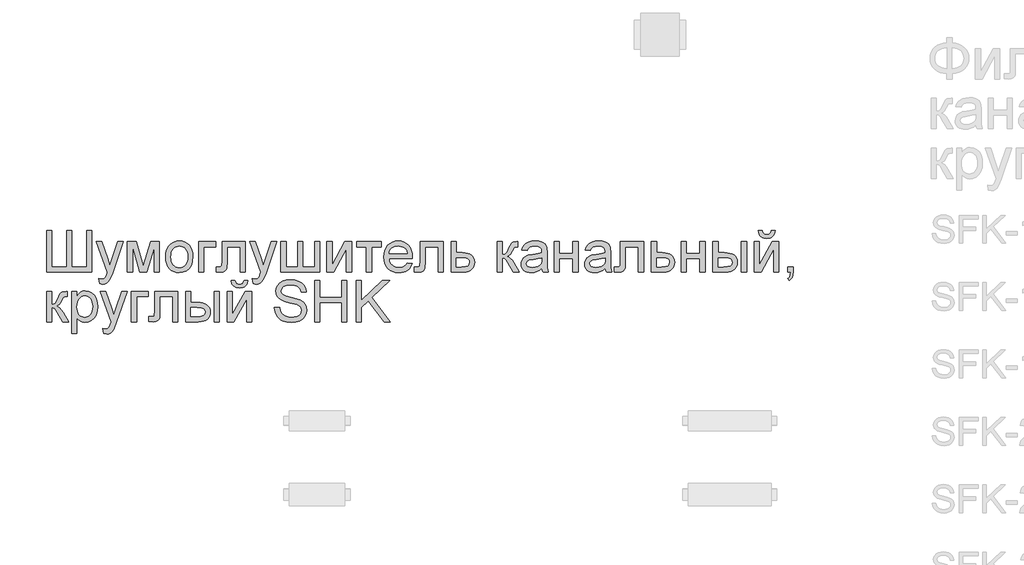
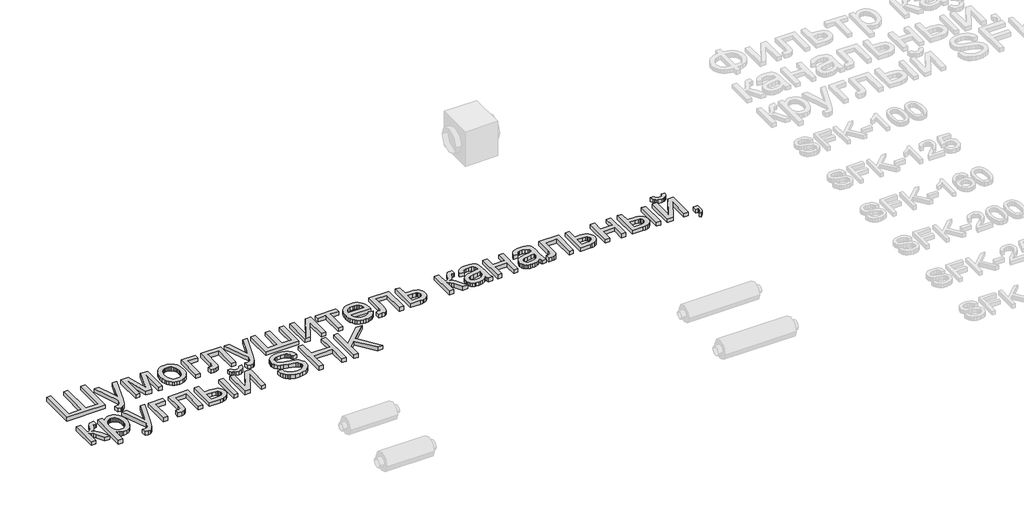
# One storey, part 11 of 31: 1 proxy.
"""IFC4 building model written with IfcOpenShell, lengths in millimetres."""

from ifc_helpers import new_model, si_unit, origin, origin_with_axes, place, context, project, spatial, polyline, outline, extrude, element, save

model = new_model("IFC4")

# Units and contexts
model_context = context("Model", 3, world=origin())
ifc_project = project(units=[si_unit("LENGTHUNIT", "METRE", prefix="MILLI")], contexts=[model_context])

# Site, building, storey
site = spatial("IfcSite", under=ifc_project)
building = spatial("IfcBuilding", under=site)
storey = spatial("IfcBuildingStorey", under=building, Name="Этаж 01", Elevation=0.0)

# Proxy
placement = place(None, origin())
element("IfcBuildingElementProxy", 1, Name="450 мм Arial", ObjectType="450 мм Arial", at=placement, inside=storey, context=model_context, shape_type="SweptSolid", body=[
    extrude(outline(polyline([(812.0594119, -9929.8493808), (868.2664298, -9929.8493808), (868.2664298, -10323.2985058), (1029.8616061, -10323.2985058), (1029.8616061, -9929.8493808), (1086.0686239, -9929.8493808), (1086.0686239, -10323.2985058), (1247.6638003, -10323.2985058), (1247.6638003, -9929.8493808), (1303.8708181, -9929.8493808), (1303.8708181, -10379.5055236), (812.0594119, -10379.5055236), (812.0594119, -9929.8493808)])), origin_with_axes(), (0.0, 0.0, 1.0), 50.0),
    extrude(outline(polyline([(1388.1813449, -10505.9713138), (1381.1554677, -10451.8501033), (1409.6980939, -10456.7901732), (1424.7104175, -10455.2395401), (1436.3744715, -10450.5876409), (1452.7315919, -10433.2973962), (1468.1006984, -10391.9105881), (1472.4918717, -10378.297951), (1353.0519587, -10049.2892938), (1412.3327979, -10049.2892938), (1475.6754723, -10232.6207778), (1497.741118, -10305.9533714), (1519.8067636, -10241.1835656), (1584.9059074, -10049.2892938), (1643.7476292, -10049.2892938), (1528.8086688, -10387.4096355), (1498.9486906, -10460.7422291), (1483.6619187, -10484.1526716), (1466.3442291, -10500.3725679), (1446.2271665, -10509.8410352), (1422.5422757, -10512.997191), (1388.1813449, -10505.9713138)])), origin_with_axes(), (0.0, 0.0, 1.0), 50.0),
    extrude(outline(polyline([(1690.2940658, -10049.2892938), (1787.0096571, -10049.2892938), (1861.5498234, -10313.6379246), (1941.9082942, -10049.2892938), (2034.5620502, -10049.2892938), (2034.5620502, -10379.5055236), (1978.3550323, -10379.5055236), (1978.3550323, -10113.6199822), (1897.5574442, -10379.5055236), (1823.7857332, -10379.5055236), (1746.5010837, -10100.8855797), (1746.5010837, -10379.5055236), (1690.2940658, -10379.5055236), (1690.2940658, -10049.2892938)])), origin_with_axes(), (0.0, 0.0, 1.0), 50.0),
    extrude(outline(polyline([(2104.8208225, -10214.3974087), (2107.8603377, -10171.6314978), (2116.9788835, -10134.7799484), (2132.1764597, -10103.8427604), (2153.4530665, -10078.819934), (2174.8737586, -10062.8264576), (2198.5174821, -10051.4025459), (2224.3842372, -10044.5481989), (2252.4740237, -10042.2634165), (2283.4832543, -10045.0456365), (2311.5215818, -10053.3922963), (2336.589006, -10067.303396), (2358.6855272, -10086.7789355), (2376.720213, -10111.160239), (2389.6021315, -10139.7886304), (2397.3312825, -10172.6641096), (2399.9076662, -10209.7866768), (2395.351824, -10266.5700361), (2389.6570211, -10289.8775605), (2381.6842972, -10309.795648), (2359.3030359, -10342.1668284), (2328.6059903, -10366.3868935), (2292.1455297, -10381.495274), (2252.4740237, -10386.5314009), (2221.0119533, -10383.7594727), (2192.7129, -10375.4436884), (2167.5768636, -10361.5840477), (2145.6038442, -10342.1805508), (2127.7612722, -10317.5625357), (2115.0165779, -10288.0593403), (2107.3697614, -10253.6709646), (2104.8208225, -10214.3974087)]), holes=[polyline([(2161.0278404, -10214.2876294), (2162.6539467, -10241.5506403), (2167.5322658, -10265.1566272), (2175.6627975, -10285.1055902), (2187.045542, -10301.3975291), (2200.8914602, -10314.0530277), (2216.4115132, -10323.0926695), (2233.605701, -10328.5164546), (2252.4740237, -10330.324383), (2271.2462894, -10328.5061628), (2288.3718652, -10323.0515023), (2303.8507509, -10313.9604014), (2317.6829467, -10301.2328601), (2329.0656912, -10284.7796828), (2337.196223, -10264.5116736), (2342.074542, -10240.4288327), (2343.7006484, -10212.5311601), (2342.0642502, -10186.1326614), (2337.1550557, -10163.1441832), (2328.9730649, -10143.5657255), (2317.5182778, -10127.3972883), (2303.6346229, -10114.7417897), (2288.1660289, -10105.7021479), (2271.1124959, -10100.2783627), (2252.4740237, -10098.4704344), (2233.605701, -10100.2715015), (2216.4115132, -10105.674703), (2200.8914602, -10114.6800388), (2187.045542, -10127.287509), (2175.6627975, -10143.5314195), (2167.5322658, -10163.4460764), (2162.6539467, -10187.0314797), (2161.0278404, -10214.2876294)])]), origin_with_axes(), (0.0, 0.0, 1.0), 50.0),
    extrude(outline(polyline([(2463.1405613, -10049.2892938), (2645.8133693, -10049.2892938), (2645.8133693, -10105.4963116), (2519.3475792, -10105.4963116), (2519.3475792, -10379.5055236), (2463.1405613, -10379.5055236), (2463.1405613, -10049.2892938)])), origin_with_axes(), (0.0, 0.0, 1.0), 50.0),
    extrude(outline(polyline([(2716.0721416, -10049.2892938), (2969.003722, -10049.2892938), (2969.003722, -10379.1761856), (2912.7967041, -10379.1761856), (2912.7967041, -10105.4963116), (2772.2791595, -10105.4963116), (2772.2791595, -10263.0296527), (2768.4917725, -10335.7035703), (2761.3972832, -10352.1567476), (2747.6885892, -10366.3868935), (2726.8854058, -10376.2258661), (2698.5074486, -10379.5055236), (2652.8392466, -10376.651261), (2652.8392466, -10323.2985058), (2677.9787135, -10323.2985058), (2703.3926288, -10319.8404568), (2709.7461076, -10315.3669491), (2713.547217, -10308.8625237), (2716.0721416, -10259.846052), (2716.0721416, -10049.2892938)])), origin_with_axes(), (0.0, 0.0, 1.0), 50.0),
    extrude(outline(polyline([(3053.3142488, -10505.9713138), (3046.2883715, -10451.8501033), (3074.8309978, -10456.7901732), (3089.8433214, -10455.2395401), (3101.5073754, -10450.5876409), (3117.8644958, -10433.2973962), (3133.2336023, -10391.9105881), (3137.6247755, -10378.297951), (3018.1848626, -10049.2892938), (3077.4657017, -10049.2892938), (3140.8083762, -10232.6207778), (3162.8740218, -10305.9533714), (3184.9396675, -10241.1835656), (3250.0388112, -10049.2892938), (3308.8805331, -10049.2892938), (3193.9415727, -10387.4096355), (3164.0815945, -10460.7422291), (3148.7948225, -10484.1526716), (3131.477133, -10500.3725679), (3111.3600704, -10509.8410352), (3087.6751796, -10512.997191), (3053.3142488, -10505.9713138)])), origin_with_axes(), (0.0, 0.0, 1.0), 50.0),
    extrude(outline(polyline([(3355.4269697, -10049.2892938), (3411.6339876, -10049.2892938), (3411.6339876, -10323.2985058), (3538.0997777, -10323.2985058), (3538.0997777, -10049.2892938), (3594.3067956, -10049.2892938), (3594.3067956, -10323.2985058), (3720.7725857, -10323.2985058), (3720.7725857, -10049.2892938), (3776.9796036, -10049.2892938), (3776.9796036, -10379.5055236), (3355.4269697, -10379.5055236), (3355.4269697, -10049.2892938)])), origin_with_axes(), (0.0, 0.0, 1.0), 50.0),
    extrude(outline(polyline([(3854.2642531, -10049.2892938), (3910.471271, -10049.2892938), (3910.471271, -10301.1230808), (4048.5736703, -10049.2892938), (4121.2475879, -10049.2892938), (4121.2475879, -10379.5055236), (4065.0405701, -10379.5055236), (4065.0405701, -10129.2086473), (3927.8164054, -10379.5055236), (3854.2642531, -10379.5055236), (3854.2642531, -10049.2892938)])), origin_with_axes(), (0.0, 0.0, 1.0), 50.0),
    extrude(outline(polyline([(4177.4546058, -10049.2892938), (4444.4379406, -10049.2892938), (4444.4379406, -10105.4963116), (4339.0497821, -10105.4963116), (4339.0497821, -10379.5055236), (4282.8427643, -10379.5055236), (4282.8427643, -10105.4963116), (4177.4546058, -10105.4963116), (4177.4546058, -10049.2892938)])), origin_with_axes(), (0.0, 0.0, 1.0), 50.0),
    extrude(outline(polyline([(4724.8143539, -10281.1432424), (4779.9235784, -10288.1691196), (4771.4740005, -10310.2416265), (4760.0672418, -10329.6931519), (4745.7033023, -10346.5236957), (4728.3821821, -10360.7332579), (4708.2822726, -10372.0199455), (4685.5819652, -10380.0818651), (4660.2812598, -10384.9190169), (4632.3801565, -10386.5314009), (4597.5046351, -10383.7491809), (4566.430223, -10375.4025211), (4539.1569203, -10361.4914214), (4515.6847269, -10342.0158818), (4496.809543, -10317.5179378), (4483.3272689, -10288.5396249), (4475.2379044, -10255.0809429), (4472.5414495, -10217.141892), (4475.2653492, -10177.9163645), (4483.4370482, -10143.3427362), (4497.0565465, -10113.4210071), (4516.1238442, -10088.1511772), (4539.5342867, -10068.0752819), (4566.1832195, -10053.7353567), (4596.0706426, -10045.1314016), (4629.1965559, -10042.2634165), (4661.2555514, -10045.1245404), (4690.2475868, -10053.7079119), (4716.1726621, -10068.013531), (4739.0307773, -10088.0413979), (4757.6898331, -10113.2563381), (4771.0177301, -10143.1231776), (4779.0144683, -10177.6419162), (4781.6800477, -10216.812554), (4781.3507097, -10231.9621018), (4528.7484674, -10231.9621018), (4532.0041107, -10254.3913915), (4538.4776606, -10274.0350307), (4548.1691173, -10290.8930193), (4561.0784806, -10304.9653574), (4576.4921849, -10316.0599311), (4593.6966645, -10323.9846266), (4612.6919195, -10328.7394439), (4633.4779499, -10330.324383), (4663.3928178, -10327.3877859), (4688.5871744, -10318.5779945), (4709.0610198, -10303.3461122), (4724.8143539, -10281.1432424)]), holes=[polyline([(4528.7484674, -10175.7550839), (4725.4730299, -10175.7550839), (4717.8708111, -10146.0597747), (4702.9682668, -10124.817474), (4687.6403277, -10113.2906442), (4670.1991363, -10105.0571943), (4650.6446929, -10100.1171244), (4628.9769973, -10098.4704344), (4591.0894054, -10103.7261199), (4559.7611286, -10119.4931764), (4547.304605, -10130.8930739), (4537.9836537, -10144.0700243), (4531.7982744, -10159.0240276), (4528.7484674, -10175.7550839)])]), origin_with_axes(), (0.0, 0.0, 1.0), 50.0),
    extrude(outline(polyline([(4865.9905745, -10049.2892938), (5118.9221548, -10049.2892938), (5118.9221548, -10379.1761856), (5062.715137, -10379.1761856), (5062.715137, -10105.4963116), (4922.1975923, -10105.4963116), (4922.1975923, -10263.0296527), (4918.4102054, -10335.7035703), (4911.3157161, -10352.1567476), (4897.607022, -10366.3868935), (4876.8038387, -10376.2258661), (4848.4258814, -10379.5055236), (4802.7576794, -10376.651261), (4802.7576794, -10323.2985058), (4827.8971464, -10323.2985058), (4853.3110617, -10319.8404568), (4859.6645405, -10315.3669491), (4863.4656499, -10308.8625237), (4865.9905745, -10259.846052), (4865.9905745, -10049.2892938)])), origin_with_axes(), (0.0, 0.0, 1.0), 50.0),
    extrude(outline(polyline([(5203.2326816, -10049.2892938), (5259.4396995, -10049.2892938), (5259.4396995, -10168.7292067), (5324.2095052, -10168.7292067), (5354.1106507, -10170.4891066), (5380.3616334, -10175.7688063), (5402.9624533, -10184.5683059), (5421.9131104, -10196.8876053), (5436.8979892, -10212.3013096), (5447.6014741, -10230.3840239), (5454.023565, -10251.1357482), (5456.1642619, -10274.5564825), (5454.3426111, -10295.4522922), (5448.8776588, -10314.7768852), (5439.7694049, -10332.5302615), (5427.0178494, -10348.7124211), (5410.2593482, -10362.1844035), (5389.1302575, -10371.807248), (5363.6305771, -10377.5809547), (5333.760307, -10379.5055236), (5203.2326816, -10379.5055236), (5203.2326816, -10049.2892938)]), holes=[polyline([(5259.4396995, -10323.2985058), (5311.91422, -10323.2985058), (5352.6286297, -10320.3481862), (5379.7029574, -10311.4972276), (5394.8936724, -10296.3888471), (5399.9572441, -10274.6662618), (5396.2110244, -10256.3056686), (5384.9723653, -10240.0857723), (5375.2054354, -10233.4578452), (5360.8895244, -10228.7236115), (5318.6107593, -10224.9362245), (5259.4396995, -10224.9362245), (5259.4396995, -10323.2985058)])]), origin_with_axes(), (0.0, 0.0, 1.0), 50.0),
    extrude(outline(polyline([(5702.069965, -10049.2892938), (5758.2769829, -10049.2892938), (5758.2769829, -10189.8068384), (5781.1385287, -10187.2819138), (5795.9312937, -10179.7071399), (5809.022479, -10159.9468602), (5826.7792859, -10120.8654181), (5841.0917663, -10088.9059101), (5852.4127599, -10070.0924771), (5862.9790205, -10059.841832), (5875.0273022, -10053.5706877), (5916.1396619, -10049.2892938), (5926.8980364, -10049.2892938), (5926.8980364, -10105.8256496), (5911.7484887, -10105.4963116), (5894.1837956, -10106.9783326), (5884.3036557, -10111.4243955), (5864.9824933, -10148.4200303), (5853.1126031, -10173.0792127), (5842.3130613, -10188.4345967), (5829.2355984, -10198.6852418), (5810.5319448, -10208.0302075), (5828.3436414, -10215.9411805), (5845.990669, -10229.9037393), (5863.4730275, -10249.9178837), (5880.7907171, -10275.9836138), (5940.9497909, -10379.5055236), (5877.0582198, -10379.5055236), (5818.1067187, -10278.1792004), (5802.1887156, -10251.2146521), (5788.4662991, -10235.3103714), (5774.6066585, -10227.5297613), (5758.2769829, -10224.9362245), (5758.2769829, -10379.5055236), (5702.069965, -10379.5055236), (5702.069965, -10049.2892938)])), origin_with_axes(), (0.0, 0.0, 1.0), 50.0),
    extrude(outline(polyline([(6186.855494, -10337.3502602), (6160.000725, -10360.3764751), (6132.3500558, -10375.4436884), (6103.2722553, -10383.7594727), (6072.1360923, -10386.5314009), (6047.1098353, -10384.8641273), (6025.1642608, -10379.8623065), (6006.2993687, -10371.5259385), (5990.5151592, -10359.8550233), (5978.0517744, -10345.5905713), (5969.1493568, -10329.4735932), (5963.8079061, -10311.5040888), (5962.0274226, -10291.6820582), (5964.7170162, -10268.3813951), (5972.7857971, -10247.2214289), (5985.2320289, -10229.1078392), (6001.053975, -10214.9463054), (6019.6478494, -10204.2428205), (6040.4098655, -10196.5033776), (6089.0421094, -10188.0503691), (6146.5115896, -10179.1582432), (6186.526156, -10168.7292067), (6186.855494, -10156.2143629), (6182.9857726, -10131.1297856), (6171.3766082, -10114.7177755), (6145.4137963, -10102.5322697), (6109.2415065, -10098.4704344), (6075.7588103, -10101.1737504), (6052.3758126, -10109.2836986), (6036.4303647, -10124.2822998), (6025.2603177, -10147.651575), (5969.0532998, -10140.6256978), (5978.8099379, -10109.8874849), (5993.3694218, -10085.7360319), (6014.0902707, -10067.2656593), (6042.3310038, -10053.5706877), (6076.870326, -10045.0902343), (6116.4869424, -10042.2634165), (6154.4843136, -10044.7608963), (6184.6050177, -10052.2533357), (6207.315617, -10063.5194396), (6223.0826735, -10077.337913), (6233.5391548, -10094.4223215), (6240.3180286, -10115.4862308), (6243.0625119, -10164.6673714), (6243.0625119, -10234.5968057), (6245.9167745, -10332.2455213), (6257.1142663, -10379.5055236), (6200.9072485, -10379.5055236), (6191.9053433, -10359.9648026), (6186.855494, -10337.3502602)]), holes=[polyline([(6186.855494, -10224.9362245), (6149.0914039, -10234.2949126), (6096.177766, -10242.1715796), (6047.8199704, -10251.2832642), (6035.2365145, -10257.5132412), (6025.9189937, -10266.1034739), (6020.1555788, -10276.3952863), (6018.2344405, -10287.7300023), (6022.4197775, -10304.4439056), (6034.9757885, -10318.1388772), (6055.6280253, -10327.2780066), (6084.1020395, -10330.324383), (6114.2913557, -10326.962391), (6140.9677333, -10316.8764149), (6162.5942617, -10302.0150378), (6177.6340301, -10284.326843), (6184.3031246, -10266.1034739), (6186.526156, -10240.8542276), (6186.855494, -10224.9362245)])]), origin_with_axes(), (0.0, 0.0, 1.0), 50.0),
    extrude(outline(polyline([(6320.3471614, -10049.2892938), (6376.5541793, -10049.2892938), (6376.5541793, -10175.7550839), (6524.0976011, -10175.7550839), (6524.0976011, -10049.2892938), (6580.304619, -10049.2892938), (6580.304619, -10379.5055236), (6524.0976011, -10379.5055236), (6524.0976011, -10231.9621018), (6376.5541793, -10231.9621018), (6376.5541793, -10379.5055236), (6320.3471614, -10379.5055236), (6320.3471614, -10049.2892938)])), origin_with_axes(), (0.0, 0.0, 1.0), 50.0),
    extrude(outline(polyline([(6875.3914627, -10337.3502602), (6848.5366937, -10360.3764751), (6820.8860245, -10375.4436884), (6791.808224, -10383.7594727), (6760.672061, -10386.5314009), (6735.645804, -10384.8641273), (6713.7002295, -10379.8623065), (6694.8353374, -10371.5259385), (6679.0511279, -10359.8550233), (6666.5877431, -10345.5905713), (6657.6853254, -10329.4735932), (6652.3438748, -10311.5040888), (6650.5633913, -10291.6820582), (6653.2529849, -10268.3813951), (6661.3217658, -10247.2214289), (6673.7679975, -10229.1078392), (6689.5899437, -10214.9463054), (6708.183818, -10204.2428205), (6728.9458342, -10196.5033776), (6777.5780781, -10188.0503691), (6835.0475583, -10179.1582432), (6875.0621247, -10168.7292067), (6875.3914627, -10156.2143629), (6871.5217413, -10131.1297856), (6859.9125769, -10114.7177755), (6833.949765, -10102.5322697), (6797.7774752, -10098.4704344), (6764.294779, -10101.1737504), (6740.9117813, -10109.2836986), (6724.9663334, -10124.2822998), (6713.7962864, -10147.651575), (6657.5892685, -10140.6256978), (6667.3459066, -10109.8874849), (6681.9053905, -10085.7360319), (6702.6262394, -10067.2656593), (6730.8669725, -10053.5706877), (6765.4062947, -10045.0902343), (6805.0229111, -10042.2634165), (6843.0202823, -10044.7608963), (6873.1409864, -10052.2533357), (6895.8515857, -10063.5194396), (6911.6186422, -10077.337913), (6922.0751235, -10094.4223215), (6928.8539973, -10115.4862308), (6931.5984806, -10164.6673714), (6931.5984806, -10234.5968057), (6934.4527432, -10332.2455213), (6945.650235, -10379.5055236), (6889.4432172, -10379.5055236), (6880.441312, -10359.9648026), (6875.3914627, -10337.3502602)]), holes=[polyline([(6875.3914627, -10224.9362245), (6837.6273726, -10234.2949126), (6784.7137347, -10242.1715796), (6736.3559391, -10251.2832642), (6723.7724831, -10257.5132412), (6714.4549624, -10266.1034739), (6708.6915475, -10276.3952863), (6706.7704091, -10287.7300023), (6710.9557462, -10304.4439056), (6723.5117572, -10318.1388772), (6744.163994, -10327.2780066), (6772.6380082, -10330.324383), (6802.8273244, -10326.962391), (6829.503702, -10316.8764149), (6851.1302304, -10302.0150378), (6866.1699988, -10284.326843), (6872.8390932, -10266.1034739), (6875.0621247, -10240.8542276), (6875.3914627, -10224.9362245)])]), origin_with_axes(), (0.0, 0.0, 1.0), 50.0),
    extrude(outline(polyline([(7036.986639, -10049.2892938), (7289.9182194, -10049.2892938), (7289.9182194, -10379.1761856), (7233.7112015, -10379.1761856), (7233.7112015, -10105.4963116), (7093.1936569, -10105.4963116), (7093.1936569, -10263.0296527), (7089.4062699, -10335.7035703), (7082.3117806, -10352.1567476), (7068.6030866, -10366.3868935), (7047.7999032, -10376.2258661), (7019.4219459, -10379.5055236), (6973.7537439, -10376.651261), (6973.7537439, -10323.2985058), (6998.8932109, -10323.2985058), (7024.3071262, -10319.8404568), (7030.660605, -10315.3669491), (7034.4617144, -10308.8625237), (7036.986639, -10259.846052), (7036.986639, -10049.2892938)])), origin_with_axes(), (0.0, 0.0, 1.0), 50.0),
    extrude(outline(polyline([(7374.2287461, -10049.2892938), (7430.435764, -10049.2892938), (7430.435764, -10168.7292067), (7495.2055697, -10168.7292067), (7525.1067152, -10170.4891066), (7551.3576979, -10175.7688063), (7573.9585178, -10184.5683059), (7592.909175, -10196.8876053), (7607.8940538, -10212.3013096), (7618.5975386, -10230.3840239), (7625.0196295, -10251.1357482), (7627.1603265, -10274.5564825), (7625.3386757, -10295.4522922), (7619.8737233, -10314.7768852), (7610.7654694, -10332.5302615), (7598.0139139, -10348.7124211), (7581.2554128, -10362.1844035), (7560.126322, -10371.807248), (7534.6266416, -10377.5809547), (7504.7563716, -10379.5055236), (7374.2287461, -10379.5055236), (7374.2287461, -10049.2892938)]), holes=[polyline([(7430.435764, -10323.2985058), (7482.9102846, -10323.2985058), (7523.6246942, -10320.3481862), (7550.6990219, -10311.4972276), (7565.8897369, -10296.3888471), (7570.9533086, -10274.6662618), (7567.2070889, -10256.3056686), (7555.9684298, -10240.0857723), (7546.2014999, -10233.4578452), (7531.8855889, -10228.7236115), (7489.6068238, -10224.9362245), (7430.435764, -10224.9362245), (7430.435764, -10323.2985058)])]), origin_with_axes(), (0.0, 0.0, 1.0), 50.0),
    extrude(outline(polyline([(7697.4190988, -10049.2892938), (7753.6261166, -10049.2892938), (7753.6261166, -10175.7550839), (7901.1695385, -10175.7550839), (7901.1695385, -10049.2892938), (7957.3765564, -10049.2892938), (7957.3765564, -10379.5055236), (7901.1695385, -10379.5055236), (7901.1695385, -10231.9621018), (7753.6261166, -10231.9621018), (7753.6261166, -10379.5055236), (7697.4190988, -10379.5055236), (7697.4190988, -10049.2892938)])), origin_with_axes(), (0.0, 0.0, 1.0), 50.0),
    extrude(outline(polyline([(8350.8256813, -10049.2892938), (8407.0326992, -10049.2892938), (8407.0326992, -10379.5055236), (8350.8256813, -10379.5055236), (8350.8256813, -10049.2892938)])), origin_with_axes(), (0.0, 0.0, 1.0), 50.0),
    extrude(outline(polyline([(8041.6870831, -10049.2892938), (8097.894101, -10049.2892938), (8097.894101, -10168.7292067), (8167.384418, -10168.7292067), (8199.361079, -10170.4891066), (8227.4474349, -10175.7688063), (8251.6434857, -10184.5683059), (8271.9492315, -10196.8876053), (8288.0147505, -10212.3013096), (8299.4901213, -10230.3840239), (8306.3753438, -10251.1357482), (8308.6704179, -10274.5564825), (8306.745849, -10295.4522922), (8300.9721423, -10314.7768852), (8291.3492977, -10332.5302615), (8277.8773154, -10348.7124211), (8260.1788287, -10362.1844035), (8237.8764714, -10371.807248), (8210.9702433, -10377.5809547), (8179.4601445, -10379.5055236), (8041.6870831, -10379.5055236), (8041.6870831, -10049.2892938)]), holes=[polyline([(8097.894101, -10323.2985058), (8155.6380295, -10323.2985058), (8200.400552, -10320.3481862), (8230.1781957, -10311.4972276), (8246.892099, -10296.3888471), (8252.4634001, -10274.6662618), (8248.3329527, -10256.3056686), (8235.9416107, -10240.0857723), (8225.1866667, -10233.4578452), (8209.4436245, -10228.7236115), (8162.9932447, -10224.9362245), (8097.894101, -10224.9362245), (8097.894101, -10323.2985058)])]), origin_with_axes(), (0.0, 0.0, 1.0), 50.0),
    extrude(outline(polyline([(8491.343226, -10049.2892938), (8547.5502438, -10049.2892938), (8547.5502438, -10301.1230808), (8685.6526431, -10049.2892938), (8758.3265608, -10049.2892938), (8758.3265608, -10379.5055236), (8702.1195429, -10379.5055236), (8702.1195429, -10129.2086473), (8564.8953782, -10379.5055236), (8491.343226, -10379.5055236), (8491.343226, -10049.2892938)])), origin_with_axes(), (0.0, 0.0, 1.0), 50.0),
    extrude(outline(polyline([(8674.016034, -9929.8493808), (8716.1712974, -9929.8493808), (8707.1007801, -9965.8432792), (8699.1383479, -9980.2895532), (8688.8911334, -9992.3687102), (8676.5649728, -10001.9023591), (8662.3657024, -10008.7121083), (8628.347832, -10014.1599076), (8591.4345317, -10008.7532755), (8576.0860088, -10001.9949854), (8562.8095709, -9992.5333792), (8551.7973317, -9980.5056812), (8543.241405, -9966.0491155), (8533.4984893, -9929.8493808), (8575.6537527, -9929.8493808), (8581.5818366, -9948.3609206), (8591.4619765, -9961.520718), (8605.349062, -9969.3836627), (8623.2979827, -9972.0046442), (8643.5522694, -9969.4659972), (8658.2078102, -9961.850056), (8668.0879501, -9948.7725931), (8674.016034, -9929.8493808)])), origin_with_axes(), (0.0, 0.0, 1.0), 50.0),
    extrude(outline(polyline([(8856.688842, -10379.5055236), (8856.688842, -10323.2985058), (8912.8958598, -10323.2985058), (8912.8958598, -10379.5055236), (8910.3709352, -10411.6571454), (8902.7961613, -10436.9750038), (8889.7324208, -10456.3922231), (8870.7405965, -10470.8419276), (8856.688842, -10449.764296), (8868.8743478, -10439.5822629), (8877.3273564, -10425.5030636), (8882.4595401, -10405.9897874), (8884.6825716, -10379.5055236), (8856.688842, -10379.5055236)])), origin_with_axes(), (0.0, 0.0, 1.0), 50.0),
    extrude(outline(polyline([(812.0594119, -10589.7213769), (868.2664298, -10589.7213769), (868.2664298, -10730.2389216), (891.1279756, -10727.7139969), (905.9207405, -10720.139223), (919.0119258, -10700.3789433), (936.7687328, -10661.2975012), (951.0812131, -10629.3379933), (962.4022067, -10610.5245603), (972.9684674, -10600.2739152), (985.0167491, -10594.0027709), (1026.1291088, -10589.7213769), (1036.8874833, -10589.7213769), (1036.8874833, -10646.2577328), (1021.7379355, -10645.9283948), (1004.1732424, -10647.4104158), (994.2931026, -10651.8564787), (974.9719402, -10688.8521135), (963.10205, -10713.5112959), (952.3025082, -10728.8666799), (939.2250453, -10739.117325), (920.5213917, -10748.4622906), (938.3330882, -10756.3732637), (955.9801158, -10770.3358225), (973.4624744, -10790.3499669), (990.780164, -10816.415697), (1050.9392378, -10919.9376068), (987.0476667, -10919.9376068), (928.0961656, -10818.6112836), (912.1781624, -10791.6467353), (898.455746, -10775.7424546), (884.5961053, -10767.9618444), (868.2664298, -10765.3683077), (868.2664298, -10919.9376068), (812.0594119, -10919.9376068), (812.0594119, -10589.7213769)])), origin_with_axes(), (0.0, 0.0, 1.0), 50.0),
    extrude(outline(polyline([(1086.0686239, -11046.403397), (1086.0686239, -10589.7213769), (1142.2756418, -10589.7213769), (1142.2756418, -10644.8306015), (1160.6087902, -10617.6464944), (1181.1375252, -10598.2292751), (1205.0694195, -10586.5789436), (1233.6120458, -10582.6954997), (1271.6231394, -10588.1295766), (1304.8588321, -10604.4318074), (1331.9194374, -10630.614178), (1351.4052687, -10665.6886745), (1363.1791021, -10707.1029274), (1367.1037132, -10752.3045672), (1362.6713727, -10800.3741921), (1349.3743511, -10843.3665229), (1327.6380434, -10879.0996954), (1297.8878445, -10905.3918454), (1263.2387429, -10921.5705744), (1226.8057272, -10926.963484), (1200.966417, -10923.3544885), (1177.8990349, -10912.5275019), (1158.1524776, -10896.1841039), (1142.2756418, -10876.0258741), (1142.2756418, -11046.403397), (1086.0686239, -11046.403397)]), holes=[polyline([(1142.2756418, -10757.4641958), (1143.7953994, -10784.5522459), (1148.3546723, -10807.8529091), (1155.9534604, -10827.3661853), (1166.5917638, -10843.0920746), (1179.3982089, -10855.1952459), (1193.5014225, -10863.8403683), (1208.9014043, -10869.0274417), (1225.5981546, -10870.7564662), (1242.5350471, -10868.9656908), (1258.2163385, -10863.5933648), (1272.6420288, -10854.6394881), (1285.812118, -10842.1040606), (1296.7866206, -10825.8086911), (1304.625551, -10805.574988), (1309.3289093, -10781.4029514), (1310.8966953, -10753.2925812), (1309.3666459, -10726.4378122), (1304.7764976, -10703.1783163), (1297.1262504, -10683.5140935), (1286.4159044, -10667.4451438), (1273.5785838, -10654.9577448), (1259.5474129, -10646.0381741), (1244.3223918, -10640.6864317), (1227.9035205, -10638.9025176), (1211.5361083, -10640.7996416), (1196.1361264, -10646.4910139), (1181.7035749, -10655.9766342), (1168.2384537, -10669.2565028), (1156.8797235, -10686.1522281), (1148.7663448, -10706.4854187), (1143.8983175, -10730.2560746), (1142.2756418, -10757.4641958)])]), origin_with_axes(), (0.0, 0.0, 1.0), 50.0),
    extrude(outline(polyline([(1430.3366083, -11046.403397), (1423.310731, -10992.2821864), (1451.8533573, -10997.2222564), (1466.8656809, -10995.6716233), (1478.5297349, -10991.0197241), (1494.8868553, -10973.7294794), (1510.2559618, -10932.3426713), (1514.6471351, -10918.7300342), (1395.2072221, -10589.7213769), (1454.4880613, -10589.7213769), (1517.8307357, -10773.0528609), (1539.8963814, -10846.3854545), (1561.962027, -10781.6156488), (1627.0611708, -10589.7213769), (1685.9028926, -10589.7213769), (1570.9639322, -10927.8417187), (1541.103954, -11001.1743123), (1525.8171821, -11024.5847548), (1508.4994925, -11040.8046511), (1488.3824299, -11050.2731184), (1464.6975391, -11053.4292742), (1430.3366083, -11046.403397)])), origin_with_axes(), (0.0, 0.0, 1.0), 50.0),
    extrude(outline(polyline([(1732.4493292, -10589.7213769), (1915.1221372, -10589.7213769), (1915.1221372, -10645.9283948), (1788.6563471, -10645.9283948), (1788.6563471, -10919.9376068), (1732.4493292, -10919.9376068), (1732.4493292, -10589.7213769)])), origin_with_axes(), (0.0, 0.0, 1.0), 50.0),
    extrude(outline(polyline([(1985.3809096, -10589.7213769), (2238.3124899, -10589.7213769), (2238.3124899, -10919.6082688), (2182.105472, -10919.6082688), (2182.105472, -10645.9283948), (2041.5879274, -10645.9283948), (2041.5879274, -10803.4617358), (2037.8005405, -10876.1356535), (2030.7060512, -10892.5888308), (2016.9973571, -10906.8189767), (1996.1941737, -10916.6579493), (1967.8162165, -10919.9376068), (1922.1480145, -10917.0833442), (1922.1480145, -10863.730589), (1947.2874814, -10863.730589), (1972.7013967, -10860.27254), (1979.0548756, -10855.7990322), (1982.8559849, -10849.2946068), (1985.3809096, -10800.2781352), (1985.3809096, -10589.7213769)])), origin_with_axes(), (0.0, 0.0, 1.0), 50.0),
    extrude(outline(polyline([(2631.7616149, -10589.7213769), (2687.9686327, -10589.7213769), (2687.9686327, -10919.9376068), (2631.7616149, -10919.9376068), (2631.7616149, -10589.7213769)])), origin_with_axes(), (0.0, 0.0, 1.0), 50.0),
    extrude(outline(polyline([(2322.6230167, -10589.7213769), (2378.8300345, -10589.7213769), (2378.8300345, -10709.1612899), (2448.3203515, -10709.1612899), (2480.2970125, -10710.9211898), (2508.3833684, -10716.2008895), (2532.5794192, -10725.0003891), (2552.885165, -10737.3196885), (2568.9506841, -10752.7333928), (2580.4260549, -10770.8161071), (2587.3112773, -10791.5678314), (2589.6063515, -10814.9885657), (2587.6817826, -10835.8843753), (2581.9080758, -10855.2089683), (2572.2852313, -10872.9623446), (2558.8132489, -10889.1445043), (2541.1147623, -10902.6164866), (2518.8124049, -10912.2393312), (2491.9061768, -10918.0130379), (2460.396078, -10919.9376068), (2322.6230167, -10919.9376068), (2322.6230167, -10589.7213769)]), holes=[polyline([(2378.8300345, -10863.730589), (2436.573963, -10863.730589), (2481.3364855, -10860.7802694), (2511.1141293, -10851.9293108), (2527.8280325, -10836.8209303), (2533.3993336, -10815.098345), (2529.2688863, -10796.7377518), (2516.8775442, -10780.5178555), (2506.1226003, -10773.8899283), (2490.379558, -10769.1556947), (2443.9291783, -10765.3683077), (2378.8300345, -10765.3683077), (2378.8300345, -10863.730589)])]), origin_with_axes(), (0.0, 0.0, 1.0), 50.0),
    extrude(outline(polyline([(2772.2791595, -10589.7213769), (2828.4861773, -10589.7213769), (2828.4861773, -10841.555164), (2966.5885767, -10589.7213769), (3039.2624943, -10589.7213769), (3039.2624943, -10919.9376068), (2983.0554764, -10919.9376068), (2983.0554764, -10669.6407304), (2845.8313118, -10919.9376068), (2772.2791595, -10919.9376068), (2772.2791595, -10589.7213769)])), origin_with_axes(), (0.0, 0.0, 1.0), 50.0),
    extrude(outline(polyline([(2954.9519675, -10470.281464), (2997.1072309, -10470.281464), (2988.0367136, -10506.2753624), (2980.0742815, -10520.7216363), (2969.827067, -10532.8007934), (2957.5009064, -10542.3344423), (2943.3016359, -10549.1441914), (2909.2837655, -10554.5919908), (2872.3704652, -10549.1853587), (2857.0219424, -10542.4270686), (2843.7455045, -10532.9654624), (2832.7332652, -10520.9377644), (2824.1773386, -10506.4811986), (2814.4344229, -10470.281464), (2856.5896863, -10470.281464), (2862.5177702, -10488.7930038), (2872.39791, -10501.9528012), (2886.2849955, -10509.8157458), (2904.2339162, -10512.4367274), (2924.488203, -10509.8980803), (2939.1437437, -10502.2821392), (2949.0238836, -10489.2046763), (2954.9519675, -10470.281464)])), origin_with_axes(), (0.0, 0.0, 1.0), 50.0),
    extrude(outline(polyline([(3285.1681974, -10765.3683077), (3341.3752152, -10765.3683077), (3347.824751, -10796.5593604), (3359.488805, -10821.6302152), (3377.6847292, -10841.5277191), (3403.7298757, -10857.1987187), (3435.5658819, -10867.3670293), (3471.1343854, -10870.7564662), (3502.4489397, -10868.1903743), (3529.8663278, -10860.4920987), (3552.0829201, -10848.3065929), (3567.795087, -10832.2788104), (3577.1400526, -10813.8770499), (3580.2550411, -10794.56961), (3577.9222303, -10775.756177), (3570.9237979, -10759.4951135), (3556.7073745, -10745.6217504), (3532.7205905, -10733.9714188), (3450.8800987, -10712.5095595), (3397.1568382, -10698.3068584), (3362.7821849, -10684.7902782), (3334.8021778, -10665.8807883), (3314.973286, -10642.9643528), (3303.1582854, -10616.5349787), (3299.2199519, -10587.086673), (3304.0914097, -10554.1665959), (3318.7057832, -10523.4695502), (3342.6788448, -10497.4518486), (3375.6263668, -10478.5698035), (3415.174371, -10467.084141), (3458.9488795, -10463.2555868), (3506.3735509, -10467.2625324), (3547.8701383, -10479.2833692), (3581.9566208, -10499.0710937), (3607.1509774, -10526.3787025), (3623.0964253, -10559.5046159), (3629.4361817, -10596.7472542), (3573.2291639, -10596.7472542), (3569.4692218, -10578.8120558), (3562.9099067, -10563.2096683), (3553.5512187, -10549.9400916), (3541.3931577, -10539.0033257), (3526.2093039, -10530.4542602), (3507.7732373, -10524.3477849), (3461.1444662, -10519.4626046), (3413.4179017, -10524.2928952), (3395.173949, -10530.3307585), (3380.676216, -10538.783767), (3361.7392813, -10560.1084022), (3357.0050476, -10572.2733244), (3355.4269697, -10585.439983), (3359.9004775, -10607.0390665), (3373.3210008, -10624.4116458), (3405.0472277, -10639.9454212), (3465.0965221, -10655.8085346), (3527.0669549, -10670.8757479), (3564.5565967, -10684.0218229), (3596.5984391, -10704.4133338), (3618.9522556, -10729.5802456), (3632.0846081, -10759.24811), (3636.462059, -10793.1424787), (3631.4259321, -10827.7915802), (3616.3175516, -10860.3823193), (3591.7544261, -10888.4309386), (3558.3540644, -10909.4536806), (3518.1885514, -10922.5860332), (3473.329972, -10926.963484), (3418.2619147, -10922.2429728), (3372.9367731, -10908.081439), (3353.7974328, -10897.4465662), (3336.8330954, -10884.423993), (3322.043761, -10869.0137193), (3309.4294297, -10851.2157451), (3291.8372918, -10810.7620614), (3285.1681974, -10765.3683077)])), origin_with_axes(), (0.0, 0.0, 1.0), 50.0),
    extrude(outline(polyline([(3720.7725857, -10919.9376068), (3720.7725857, -10470.281464), (3776.9796036, -10470.281464), (3776.9796036, -10652.954272), (4015.8594295, -10652.954272), (4015.8594295, -10470.281464), (4072.0664473, -10470.281464), (4072.0664473, -10919.9376068), (4015.8594295, -10919.9376068), (4015.8594295, -10709.1612899), (3776.9796036, -10709.1612899), (3776.9796036, -10919.9376068), (3720.7725857, -10919.9376068)])), origin_with_axes(), (0.0, 0.0, 1.0), 50.0),
    extrude(outline(polyline([(4170.4287286, -10919.9376068), (4170.4287286, -10470.281464), (4226.6357464, -10470.281464), (4226.6357464, -10690.3890241), (4457.1723431, -10470.281464), (4535.7743446, -10470.281464), (4342.2333827, -10655.1498587), (4542.8002218, -10919.9376068), (4474.0783602, -10919.9376068), (4302.3834853, -10693.1335074), (4226.6357464, -10765.3683077), (4226.6357464, -10919.9376068), (4170.4287286, -10919.9376068)])), origin_with_axes(), (0.0, 0.0, 1.0), 50.0),
])

save(model, "model.ifc")
